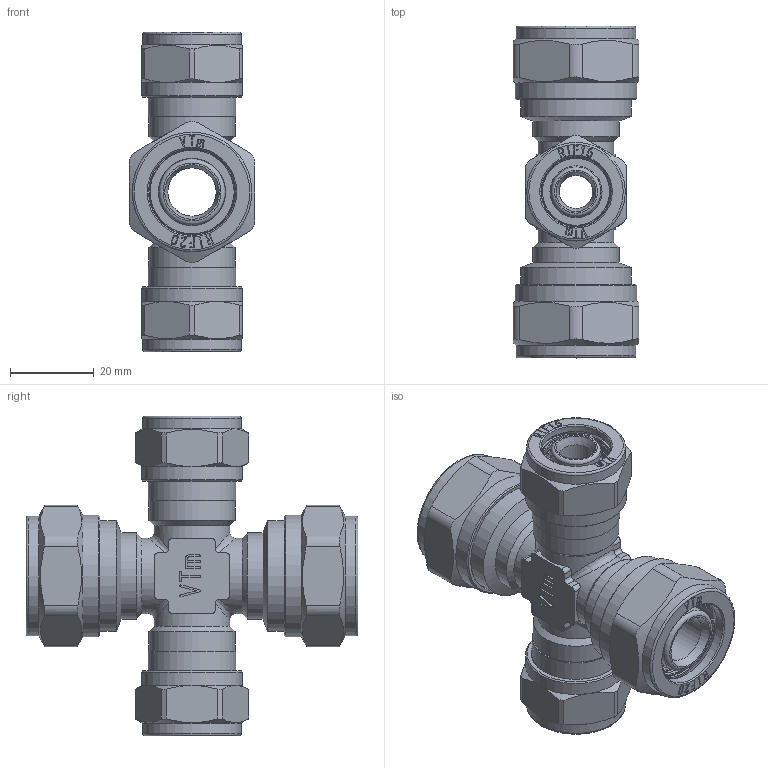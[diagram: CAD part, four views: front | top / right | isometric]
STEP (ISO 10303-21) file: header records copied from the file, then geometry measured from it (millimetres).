
FILE_DESCRIPTION(('STEP AP203'), '1');
FILE_NAME('VTm.341.N.201620', '', ('UNSPECIFIED'), ('UNSPECIFIED'), 'C3D Converter', 'C3D Toolkit', '');
FILE_SCHEMA(('CONFIG_CONTROL_DESIGN'));
Length unit declared in the file: millimetre
Products named in the file (1): ВР.302635.087.000 СБ
Bounding box: 30 x 79.06 x 76.21 mm (x, y, z)
Volume: 43627.9 mm3; surface area: 30772 mm2
Topology: 3 solids, 3 shells, 1293 faces, 3520 edges, 2319 vertices
Faces by surface type: extrusion 534, plane 440, cylinder 145, torus 108, cone 62, bspline 4
Full cylindrical faces by diameter (mm): 8 x2, 11.5 x1, 11.8 x8, 12.4 x2, 15.8 x8, 15.9 x2, 16.2 x2, 16.7 x2, 18 x4, 18.632 x2, 20.1 x2, 20.2 x2, 20.5 x4, 20.7 x2, 20.955 x2, 23.5 x2, 24 x2, 24.118 x2, 26.441 x2, 28.5 x2, 29 x2
Entity records: 46872 total; most frequent: CARTESIAN_POINT 17270, ORIENTED_EDGE 6746, DIRECTION 4396, EDGE_CURVE 3373, VERTEX_POINT 2319, VECTOR 2050, B_SPLINE_CURVE_WITH_KNOTS 1894, EDGE_LOOP 1536
